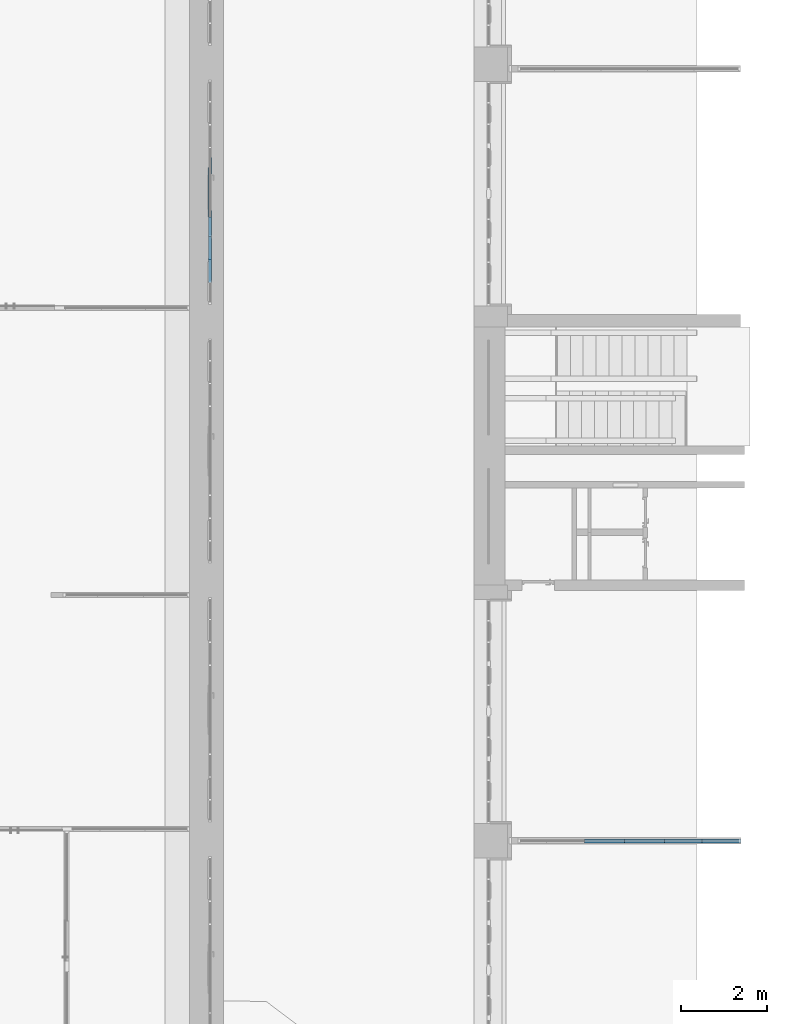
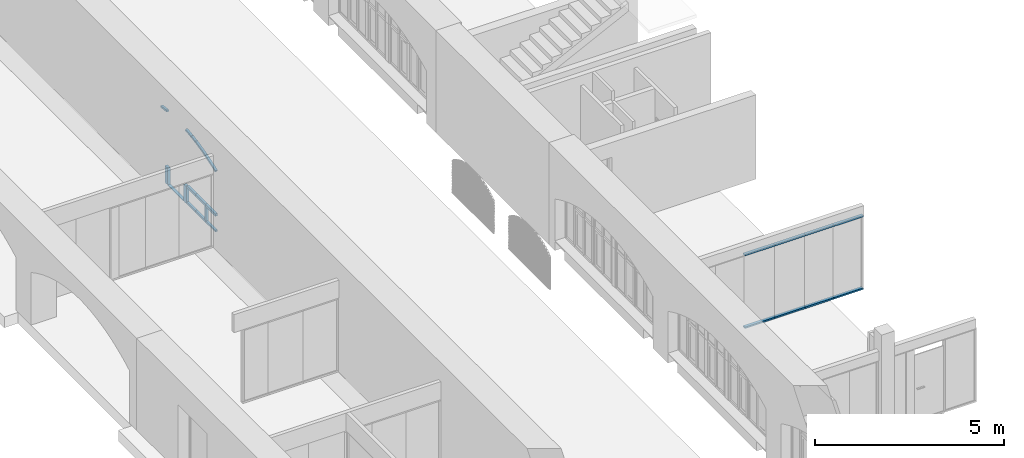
# One storey, part 34 of 88: 23 members, 2 elements without a shape of their own.
"""IFC2X3 building model written with IfcOpenShell, lengths in millimetres."""

from ifc_helpers import new_model, entity, si_unit, converted_unit, derived_unit, direction, frame, frame_2d, origin, place, context, subcontext, project, spatial, polyline, circle_curve, parameter, trimmed, segment, composite_curve, rectangle, outline, extrude, source, transform, mapped, material, type_object, type_shapes, element, aggregate, save


model = new_model("IFC2X3")

# Units and contexts
model_context = context("Model", 3, precision=0.01, world=origin(), true_north=direction((6.123031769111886e-17, 1.0)))
body_context = subcontext(model_context, "Body", "Model", "MODEL_VIEW")
ifc_project = project(units=[si_unit("LENGTHUNIT", "METRE", prefix="MILLI"), si_unit("AREAUNIT", "SQUARE_METRE"), si_unit("VOLUMEUNIT", "CUBIC_METRE"), converted_unit("PLANEANGLEUNIT", "DEGREE", entity("IfcPlaneAngleMeasure", 0.017453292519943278), si_unit("PLANEANGLEUNIT", "RADIAN"), dimensions=[0, 0, 0, 0, 0, 0, 0]), si_unit("MASSUNIT", "GRAM", prefix="KILO"), derived_unit("MASSDENSITYUNIT", [(si_unit("MASSUNIT", "GRAM", prefix="KILO"), 1), (si_unit("LENGTHUNIT", "METRE"), -3)]), derived_unit("IONCONCENTRATIONUNIT", [(si_unit("MASSUNIT", "GRAM", prefix="KILO"), 1), (si_unit("LENGTHUNIT", "METRE"), -3)]), derived_unit("MOMENTOFINERTIAUNIT", [(si_unit("LENGTHUNIT", "METRE"), 4)]), si_unit("TIMEUNIT", "SECOND"), si_unit("FREQUENCYUNIT", "HERTZ"), si_unit("THERMODYNAMICTEMPERATUREUNIT", "DEGREE_CELSIUS"), derived_unit("THERMALTRANSMITTANCEUNIT", [(si_unit("MASSUNIT", "GRAM", prefix="KILO"), 1), (si_unit("THERMODYNAMICTEMPERATUREUNIT", "KELVIN"), -1), (si_unit("TIMEUNIT", "SECOND"), -3)]), derived_unit("THERMALCONDUCTANCEUNIT", [(si_unit("MASSUNIT", "GRAM", prefix="KILO"), 1), (si_unit("THERMODYNAMICTEMPERATUREUNIT", "KELVIN"), -1), (si_unit("TIMEUNIT", "SECOND"), -3), (si_unit("LENGTHUNIT", "METRE"), 1)]), derived_unit("VOLUMETRICFLOWRATEUNIT", [(si_unit("LENGTHUNIT", "METRE", prefix="DECI"), 3), (si_unit("TIMEUNIT", "SECOND"), -1)]), derived_unit("MASSFLOWRATEUNIT", [(si_unit("MASSUNIT", "GRAM", prefix="KILO"), 1), (si_unit("TIMEUNIT", "SECOND"), -1)]), derived_unit("ROTATIONALFREQUENCYUNIT", [(si_unit("TIMEUNIT", "SECOND"), -1)]), si_unit("ELECTRICCURRENTUNIT", "AMPERE"), si_unit("ELECTRICVOLTAGEUNIT", "VOLT"), si_unit("POWERUNIT", "WATT"), si_unit("FORCEUNIT", "NEWTON", prefix="KILO"), si_unit("ILLUMINANCEUNIT", "LUX"), si_unit("LUMINOUSFLUXUNIT", "LUMEN"), si_unit("LUMINOUSINTENSITYUNIT", "CANDELA"), si_unit("ENERGYUNIT", "JOULE"), derived_unit("USERDEFINED", [(si_unit("MASSUNIT", "GRAM", prefix="KILO"), -1), (si_unit("LENGTHUNIT", "METRE"), -2), (si_unit("TIMEUNIT", "SECOND"), 3), (si_unit("LUMINOUSFLUXUNIT", "LUMEN"), 1)]), derived_unit("USERDEFINED", [(si_unit("MASSUNIT", "GRAM", prefix="KILO"), 1), (si_unit("TIMEUNIT", "SECOND"), -3), (si_unit("LENGTHUNIT", "METRE"), 3), (si_unit("ELECTRICCURRENTUNIT", "AMPERE"), -2)]), derived_unit("SOUNDPOWERUNIT", [(si_unit("MASSUNIT", "GRAM", prefix="KILO"), 1), (si_unit("TIMEUNIT", "SECOND"), -3), (si_unit("LENGTHUNIT", "METRE"), 2)]), derived_unit("SOUNDPRESSUREUNIT", [(si_unit("MASSUNIT", "GRAM", prefix="KILO"), 1), (si_unit("LENGTHUNIT", "METRE"), -1), (si_unit("TIMEUNIT", "SECOND"), -2)]), derived_unit("LINEARVELOCITYUNIT", [(si_unit("LENGTHUNIT", "METRE"), 1), (si_unit("TIMEUNIT", "SECOND"), -1)]), si_unit("PRESSUREUNIT", "PASCAL"), derived_unit("USERDEFINED", [(si_unit("MASSUNIT", "GRAM", prefix="KILO"), 1), (si_unit("LENGTHUNIT", "METRE"), -2), (si_unit("TIMEUNIT", "SECOND"), -2)]), derived_unit("LINEARFORCEUNIT", [(si_unit("MASSUNIT", "GRAM", prefix="KILO"), 1), (si_unit("TIMEUNIT", "SECOND"), -2)]), derived_unit("PLANARFORCEUNIT", [(si_unit("MASSUNIT", "GRAM", prefix="KILO"), 1), (si_unit("LENGTHUNIT", "METRE"), -1), (si_unit("TIMEUNIT", "SECOND"), -2)]), derived_unit("SPECIFICHEATCAPACITYUNIT", [(si_unit("THERMODYNAMICTEMPERATUREUNIT", "KELVIN"), -1), (si_unit("LENGTHUNIT", "METRE"), 2), (si_unit("TIMEUNIT", "SECOND"), -2)]), derived_unit("HEATFLUXDENSITYUNIT", [(si_unit("MASSUNIT", "GRAM", prefix="KILO"), 1), (si_unit("TIMEUNIT", "SECOND"), -3)]), derived_unit("HEATINGVALUEUNIT", [(si_unit("LENGTHUNIT", "METRE"), 2), (si_unit("TIMEUNIT", "SECOND"), -2)]), derived_unit("VAPORPERMEABILITYUNIT", [(si_unit("LENGTHUNIT", "METRE"), -1), (si_unit("TIMEUNIT", "SECOND"), 1)]), derived_unit("DYNAMICVISCOSITYUNIT", [(si_unit("MASSUNIT", "GRAM", prefix="KILO"), 1), (si_unit("TIMEUNIT", "SECOND"), -1), (si_unit("LENGTHUNIT", "METRE"), -1)]), derived_unit("THERMALEXPANSIONCOEFFICIENTUNIT", [(si_unit("THERMODYNAMICTEMPERATUREUNIT", "KELVIN"), -1)]), derived_unit("MODULUSOFELASTICITYUNIT", [(si_unit("MASSUNIT", "GRAM", prefix="KILO"), 1), (si_unit("LENGTHUNIT", "METRE"), -1), (si_unit("TIMEUNIT", "SECOND"), -2)]), derived_unit("ISOTHERMALMOISTURECAPACITYUNIT", [(si_unit("MASSUNIT", "GRAM", prefix="KILO"), -1), (si_unit("LENGTHUNIT", "METRE"), 3)]), derived_unit("MOISTUREDIFFUSIVITYUNIT", [(si_unit("TIMEUNIT", "SECOND"), -1), (si_unit("LENGTHUNIT", "METRE"), 2)]), derived_unit("MASSPERLENGTHUNIT", [(si_unit("MASSUNIT", "GRAM", prefix="KILO"), 1), (si_unit("LENGTHUNIT", "METRE"), -1)]), derived_unit("THERMALRESISTANCEUNIT", [(si_unit("MASSUNIT", "GRAM", prefix="KILO"), -1), (si_unit("TIMEUNIT", "SECOND"), 3), (si_unit("THERMODYNAMICTEMPERATUREUNIT", "KELVIN"), 1)]), derived_unit("ACCELERATIONUNIT", [(si_unit("LENGTHUNIT", "METRE"), 1), (si_unit("TIMEUNIT", "SECOND"), -2)]), derived_unit("ANGULARVELOCITYUNIT", [(si_unit("TIMEUNIT", "SECOND"), -1), (si_unit("PLANEANGLEUNIT", "RADIAN"), 1)]), derived_unit("LINEARSTIFFNESSUNIT", [(si_unit("MASSUNIT", "GRAM", prefix="KILO"), 1), (si_unit("TIMEUNIT", "SECOND"), -2)]), derived_unit("WARPINGCONSTANTUNIT", [(si_unit("LENGTHUNIT", "METRE"), 6)]), derived_unit("LINEARMOMENTUNIT", [(si_unit("MASSUNIT", "GRAM", prefix="KILO"), 1), (si_unit("LENGTHUNIT", "METRE"), 1), (si_unit("TIMEUNIT", "SECOND"), -2)]), derived_unit("TORQUEUNIT", [(si_unit("MASSUNIT", "GRAM", prefix="KILO"), 1), (si_unit("LENGTHUNIT", "METRE"), 2), (si_unit("TIMEUNIT", "SECOND"), -2)])], contexts=[model_context])

# Site, building, storey
site_placement = place(None, origin())
site = spatial("IfcSite", under=ifc_project, at=site_placement, Name="Default", CompositionType="ELEMENT")
building_placement = place(site_placement, origin())
building = spatial("IfcBuilding", under=site, at=building_placement, Name="Eesti Rahvusraamatukogu hoone renoveerimise projekteerimistööd", CompositionType="ELEMENT")
storey_placement = place(building_placement, origin())
storey = spatial("IfcBuildingStorey", under=building, at=storey_placement, Name="1. korrus", CompositionType="ELEMENT", Elevation=0.0)

# Curtain wall, members
curtain_wall_type_1 = type_object("IfcCurtainWallType", Name="Curtain Wall:VLS Klaasvahesein profiilita 38db", PredefinedType="NOTDEFINED")
curtain_wall_1_placement = place(storey_placement, origin())
curtain_wall_1 = element("IfcCurtainWall", 1, at=curtain_wall_1_placement, inside=storey, type_object=curtain_wall_type_1, Name="Curtain Wall:VLS Klaasvahesein profiilita 38db", ObjectType="Curtain Wall:VLS Klaasvahesein profiilita 38db")
ifc_material_1 = material(Name="Aluminum")
member_type_1 = type_object("IfcMemberType", Name="Rectangular Mullion:50mm x 92mm", PredefinedType="MULLION", material=ifc_material_1)
shared_shape_1 = source(origin(), body_context, "Body", "SweptSolid", [
    extrude(rectangle(XDim=50.0, YDim=92.0, at=frame_2d((0.0, 3.552713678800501e-15), x_axis=(1.0, 0.0))), frame((-25.0, 0.0, -902.5000000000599), z_axis=(0.0, 0.0, 1.0), x_axis=(-1.0, 0.0, 0.0)), (0.0, 0.0, 1.0), 902.500000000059),
])
type_shapes(member_type_1, [shared_shape_1])
member_1_placement = place(curtain_wall_1_placement, frame((-30590.0, 18390.0, 4050.0), z_axis=(1.0, 0.0, 0.0), x_axis=(0.0, 0.0, 1.0)))
member_1 = element("IfcMember", 2, at=member_1_placement, type_object=member_type_1, material=ifc_material_1, Name="Rectangular Mullion:50mm x 92mm", ObjectType="Rectangular Mullion:50mm x 92mm", context=body_context, shape_type="MappedRepresentation", body=[
    mapped(shared_shape_1, transform((0.0, 0.0, 0.0), scale=1.0)),
])
member_type_2 = type_object("IfcMemberType", Name="Rectangular Mullion:50mm x 92mm", PredefinedType="MULLION", material=ifc_material_1)
shared_shape_2 = source(origin(), body_context, "Body", "SweptSolid", [
    extrude(rectangle(XDim=50.0, YDim=92.0, at=frame_2d((0.0, 3.552713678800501e-15), x_axis=(1.0, 0.0))), frame((-25.0, 0.0, -877.5000000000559), z_axis=(0.0, 0.0, 1.0), x_axis=(-1.0, 0.0, 0.0)), (0.0, 0.0, 1.0), 877.500000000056),
])
type_shapes(member_type_2, [shared_shape_2])
member_2_placement = place(curtain_wall_1_placement, frame((-31492.49999999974, 18390.0, 4050.0), z_axis=(1.0, 0.0, 0.0), x_axis=(0.0, 0.0, 1.0)))
member_2 = element("IfcMember", 3, at=member_2_placement, type_object=member_type_2, material=ifc_material_1, Name="Rectangular Mullion:50mm x 92mm", ObjectType="Rectangular Mullion:50mm x 92mm", context=body_context, shape_type="MappedRepresentation", body=[
    mapped(shared_shape_2, transform((0.0, 0.0, 0.0), scale=1.0)),
])
member_type_3 = type_object("IfcMemberType", Name="Rectangular Mullion:50mm x 92mm", PredefinedType="MULLION", material=ifc_material_1)
shared_shape_3 = source(origin(), body_context, "Body", "SweptSolid", [
    extrude(rectangle(XDim=50.0, YDim=92.0, at=frame_2d((0.0, 3.552713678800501e-15), x_axis=(1.0, 0.0))), frame((-25.0, 0.0, -925.0), z_axis=(0.0, 0.0, 1.0), x_axis=(-1.0, 0.0, 0.0)), (0.0, 0.0, 1.0), 924.999999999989),
])
type_shapes(member_type_3, [shared_shape_3])
member_3_placement = place(curtain_wall_1_placement, frame((-32370.0, 18390.0, 4050.0), z_axis=(1.0, 0.0, 0.0), x_axis=(0.0, 0.0, 1.0)))
member_3 = element("IfcMember", 4, at=member_3_placement, type_object=member_type_3, material=ifc_material_1, Name="Rectangular Mullion:50mm x 92mm", ObjectType="Rectangular Mullion:50mm x 92mm", context=body_context, shape_type="MappedRepresentation", body=[
    mapped(shared_shape_3, transform((0.0, 0.0, 0.0), scale=1.0)),
])
member_4_placement = place(curtain_wall_1_placement, frame((-33295.0, 18390.0, 4050.0), z_axis=(1.0, 0.0, 0.0), x_axis=(0.0, 0.0, 1.0)))
member_4 = element("IfcMember", 5, at=member_4_placement, type_object=member_type_3, material=ifc_material_1, Name="Rectangular Mullion:50mm x 92mm", ObjectType="Rectangular Mullion:50mm x 92mm", context=body_context, shape_type="MappedRepresentation", body=[
    mapped(shared_shape_3, transform((0.0, 0.0, 0.0), scale=1.0)),
])
member_type_4 = type_object("IfcMemberType", Name="Rectangular Mullion:50mm x 92mm", PredefinedType="MULLION", material=ifc_material_1)
shared_shape_4 = source(origin(), body_context, "Body", "SweptSolid", [
    extrude(rectangle(XDim=50.0, YDim=92.0, at=frame_2d((0.0, 3.552713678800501e-15), x_axis=(1.0, 0.0))), frame((-25.0, 0.0, -877.5000000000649), z_axis=(0.0, 0.0, 1.0), x_axis=(-1.0, 0.0, 0.0)), (0.0, 0.0, 1.0), 877.5000000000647),
])
type_shapes(member_type_4, [shared_shape_4])
member_5_placement = place(curtain_wall_1_placement, frame((-32370.0, 18390.0, 1650.0), z_axis=(-1.0, 0.0, 0.0), x_axis=(0.0, 0.0, -1.0)))
member_5 = element("IfcMember", 6, at=member_5_placement, type_object=member_type_4, material=ifc_material_1, Name="Rectangular Mullion:50mm x 92mm", ObjectType="Rectangular Mullion:50mm x 92mm", context=body_context, shape_type="MappedRepresentation", body=[
    mapped(shared_shape_4, transform((0.0, 0.0, 0.0), scale=1.0)),
])
member_type_5 = type_object("IfcMemberType", Name="Rectangular Mullion:50mm x 92mm", PredefinedType="MULLION", material=ifc_material_1)
shared_shape_5 = source(origin(), body_context, "Body", "SweptSolid", [
    extrude(rectangle(XDim=50.0, YDim=92.0, at=frame_2d((0.0, 3.552713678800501e-15), x_axis=(1.0, 0.0))), frame((-25.0, 0.0, -902.5000000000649), z_axis=(0.0, 0.0, 1.0), x_axis=(-1.0, 0.0, 0.0)), (0.0, 0.0, 1.0), 902.5000000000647),
])
type_shapes(member_type_5, [shared_shape_5])
member_6_placement = place(curtain_wall_1_placement, frame((-31492.49999999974, 18390.0, 1650.0), z_axis=(-1.0, 0.0, 0.0), x_axis=(0.0, 0.0, -1.0)))
member_6 = element("IfcMember", 7, at=member_6_placement, type_object=member_type_5, material=ifc_material_1, Name="Rectangular Mullion:50mm x 92mm", ObjectType="Rectangular Mullion:50mm x 92mm", context=body_context, shape_type="MappedRepresentation", body=[
    mapped(shared_shape_5, transform((0.0, 0.0, 0.0), scale=1.0)),
])
member_type_6 = type_object("IfcMemberType", Name="Rectangular Mullion:50mm x 92mm", PredefinedType="MULLION", material=ifc_material_1)
shared_shape_6 = source(origin(), body_context, "Body", "SweptSolid", [
    extrude(rectangle(XDim=50.0, YDim=92.0, at=frame_2d((0.0, 3.552713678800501e-15), x_axis=(1.0, 0.0))), frame((-25.0, 0.0, -925.0), z_axis=(0.0, 0.0, 1.0), x_axis=(-1.0, 0.0, 0.0)), (0.0, 0.0, 1.0), 924.999999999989),
])
type_shapes(member_type_6, [shared_shape_6])
member_7_placement = place(curtain_wall_1_placement, frame((-33295.0, 18390.0, 1650.0), z_axis=(-1.0, 0.0, 0.0), x_axis=(0.0, 0.0, -1.0)))
member_7 = element("IfcMember", 8, at=member_7_placement, type_object=member_type_6, material=ifc_material_1, Name="Rectangular Mullion:50mm x 92mm", ObjectType="Rectangular Mullion:50mm x 92mm", context=body_context, shape_type="MappedRepresentation", body=[
    mapped(shared_shape_6, transform((0.0, 0.0, 0.0), scale=1.0)),
])
member_8_placement = place(curtain_wall_1_placement, frame((-34220.0, 18390.0, 1650.0), z_axis=(-1.0, 0.0, 0.0), x_axis=(0.0, 0.0, -1.0)))
member_8 = element("IfcMember", 9, at=member_8_placement, type_object=member_type_6, material=ifc_material_1, Name="Rectangular Mullion:50mm x 92mm", ObjectType="Rectangular Mullion:50mm x 92mm", context=body_context, shape_type="MappedRepresentation", body=[
    mapped(shared_shape_6, transform((0.0, 0.0, 0.0), scale=1.0)),
])
aggregate(curtain_wall_1, [member_1, member_3, member_2, member_5, member_6, member_4, member_7, member_8])

curtain_wall_type_2 = type_object("IfcCurtainWallType", Name="Curtain Wall:Ak-05", PredefinedType="NOTDEFINED")
curtain_wall_2_placement = place(storey_placement, origin())
curtain_wall_2 = element("IfcCurtainWall", 10, at=curtain_wall_2_placement, inside=storey, type_object=curtain_wall_type_2, Name="Curtain Wall:Ak-05", ObjectType="Curtain Wall:Ak-05")
ifc_material_2 = material(Name="LUMION_dark steel window frames")
member_type_7 = type_object("IfcMemberType", Name="Rectangular Mullion:NEW 60x70mm", PredefinedType="MULLION", material=ifc_material_2)
shared_shape_7 = source(origin(), body_context, "Body", "SweptSolid", [
    extrude(outline(composite_curve([segment(polyline([(-44.19959331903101, -278.92780712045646), (15.800406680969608, -278.9278071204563)]), True, "CONTINUOUS"), segment(trimmed(circle_curve(frame_2d((5479.080973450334, -278.9278071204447), x_axis=(-0.9948301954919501, 0.10155236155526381)), 5463.280566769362), [parameter(3.5622212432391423e-13)], [parameter(5.828569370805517)], True, "PARAMETER"), False, "CONTINUOUS"), segment(polyline([(44.04449918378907, 275.8812362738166), (-15.645312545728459, 281.97437796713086)]), True, "CONTINUOUS"), segment(trimmed(circle_curve(frame_2d((5479.080973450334, -278.9278071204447), x_axis=(-0.9948301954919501, 0.10155236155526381)), 5523.280566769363), [parameter(3.5622212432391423e-13)], [parameter(5.828569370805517)], True, "PARAMETER"), True, "CONTINUOUS")], self_intersect=False)), frame((-44.19959331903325, -35.0, -278.9278071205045), z_axis=(0.0, 1.0, 0.0), x_axis=(-0.9948301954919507, 0.0, 0.10155236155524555)), (0.0, 0.0, 1.0), 69.99999999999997),
])
type_shapes(member_type_7, [shared_shape_7])
member_9_placement = place(curtain_wall_2_placement, frame((-42905.0, 31335.0, 1939.3047106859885), z_axis=(0.0, -0.9256428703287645, -0.3783983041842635), x_axis=(0.0, -0.3783983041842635, 0.9256428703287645)))
member_9 = element("IfcMember", 11, at=member_9_placement, type_object=member_type_7, material=ifc_material_2, Name="Rectangular Mullion:NEW 60x70mm", ObjectType="Rectangular Mullion:NEW 60x70mm", context=body_context, shape_type="MappedRepresentation", body=[
    mapped(shared_shape_7, transform((0.0, 0.0, 0.0), scale=1.0)),
])
member_type_8 = type_object("IfcMemberType", Name="Rectangular Mullion:NEW 60x70mm", PredefinedType="MULLION", material=ifc_material_2)
shared_shape_8 = source(origin(), body_context, "Body", "SweptSolid", [
    extrude(outline(composite_curve([segment(polyline([(-43.38278695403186, -270.80676601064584), (16.61721304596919, -270.80676601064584)]), True, "CONTINUOUS"), segment(trimmed(circle_curve(frame_2d((5479.897779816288, -270.80676601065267), x_axis=(-0.9951275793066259, 0.09859564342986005)), 5463.280566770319), [parameter(3.5622212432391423e-13)], [parameter(5.658307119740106)], True, "PARAMETER"), False, "CONTINUOUS"), segment(polyline([(43.23661433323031, 267.8488967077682), (-16.471040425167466, 273.7646353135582)]), True, "CONTINUOUS"), segment(trimmed(circle_curve(frame_2d((5479.897779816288, -270.80676601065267), x_axis=(-0.9951275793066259, 0.09859564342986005)), 5523.280566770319), [parameter(3.5622212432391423e-13)], [parameter(5.658307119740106)], True, "PARAMETER"), True, "CONTINUOUS")], self_intersect=False)), frame((-43.382786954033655, -35.0, -270.8067660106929), z_axis=(0.0, 1.0, 0.0), x_axis=(-0.9951275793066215, 0.0, 0.09859564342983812)), (0.0, 0.0, 1.0), 69.99999999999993),
])
type_shapes(member_type_8, [shared_shape_8])
member_10_placement = place(curtain_wall_2_placement, frame((-42905.0, 31865.0, 2125.118079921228), z_axis=(0.0, -0.9592847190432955, -0.28244083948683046), x_axis=(0.0, -0.28244083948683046, 0.9592847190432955)))
member_10 = element("IfcMember", 12, at=member_10_placement, type_object=member_type_8, material=ifc_material_2, Name="Rectangular Mullion:NEW 60x70mm", ObjectType="Rectangular Mullion:NEW 60x70mm", context=body_context, shape_type="MappedRepresentation", body=[
    mapped(shared_shape_8, transform((0.0, 0.0, 0.0), scale=1.0)),
])
member_type_9 = type_object("IfcMemberType", Name="Rectangular Mullion:NEW 60x70mm", PredefinedType="MULLION", material=ifc_material_2)
shared_shape_9 = source(origin(), body_context, "Body", "SweptSolid", [
    extrude(outline(composite_curve([segment(polyline([(-32.20246871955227, -109.97239538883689), (27.79753128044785, -109.97239538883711)]), True, "CONTINUOUS"), segment(trimmed(circle_curve(frame_2d((5491.078098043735, -109.97239538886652), x_axis=(-0.9991981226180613, 0.040038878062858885)), 5463.280566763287), [parameter(3.5622212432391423e-13)], [parameter(2.2946721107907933)], True, "PARAMETER"), False, "CONTINUOUS"), segment(polyline([(32.17841239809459, 108.77122904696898), (-27.7734749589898, 111.17356173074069)]), True, "CONTINUOUS"), segment(trimmed(circle_curve(frame_2d((5491.078098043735, -109.97239538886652), x_axis=(-0.9991981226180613, 0.040038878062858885)), 5523.280566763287), [parameter(3.5622212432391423e-13)], [parameter(2.2946721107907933)], True, "PARAMETER"), True, "CONTINUOUS")], self_intersect=False)), frame((-32.202468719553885, -35.0, -109.9723953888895), z_axis=(0.0, 1.0, 0.0), x_axis=(-0.9991981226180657, 0.0, 0.04003887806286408)), (0.0, 0.0, 1.0), 69.99999999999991),
])
type_shapes(member_type_9, [shared_shape_9])
member_11_placement = place(curtain_wall_2_placement, frame((-42905.0, 32395.0, 2253.1112564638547), z_axis=(0.0, -0.9824581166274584, -0.18648337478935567), x_axis=(0.0, -0.18648337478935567, 0.9824581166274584)))
member_11 = element("IfcMember", 13, at=member_11_placement, type_object=member_type_9, material=ifc_material_2, Name="Rectangular Mullion:NEW 60x70mm", ObjectType="Rectangular Mullion:NEW 60x70mm", context=body_context, shape_type="MappedRepresentation", body=[
    mapped(shared_shape_9, transform((0.0, 0.0, 0.0), scale=1.0)),
])
member_type_10 = type_object("IfcMemberType", Name="Rectangular Mullion:NEW 60x70mm", PredefinedType="MULLION", material=ifc_material_2)
shared_shape_10 = source(origin(), body_context, "Body", "SweptSolid", [
    extrude(outline(composite_curve([segment(polyline([(-34.44225079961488, -156.14991642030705), (25.5577492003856, -156.14991642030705)]), True, "CONTINUOUS"), segment(trimmed(circle_curve(frame_2d((5488.8383159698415, -156.14991642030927), x_axis=(-0.9983826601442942, 0.05685124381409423)), 5463.280566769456), [parameter(3.5622212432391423e-13)], [parameter(3.2590935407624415)], True, "PARAMETER"), False, "CONTINUOUS"), segment(polyline([(34.393730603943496, 154.44437910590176), (-25.509229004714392, 157.8554537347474)]), True, "CONTINUOUS"), segment(trimmed(circle_curve(frame_2d((5488.8383159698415, -156.14991642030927), x_axis=(-0.9983826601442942, 0.05685124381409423)), 5523.280566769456), [parameter(3.5622212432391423e-13)], [parameter(3.2590935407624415)], True, "PARAMETER"), True, "CONTINUOUS")], self_intersect=False)), frame((-34.44225079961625, -35.0, -156.14991642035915), z_axis=(0.0, 1.0, 0.0), x_axis=(-0.9983826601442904, 0.0, 0.056851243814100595)), (0.0, 0.0, 1.0), 69.99999999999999),
])
type_shapes(member_type_10, [shared_shape_10])
member_12_placement = place(curtain_wall_2_placement, frame((-42905.0, 33925.0, 2327.321965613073), z_axis=(0.0, -0.9958941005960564, 0.09052591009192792), x_axis=(0.0, 0.09052591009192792, 0.9958941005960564)))
member_12 = element("IfcMember", 14, at=member_12_placement, type_object=member_type_10, material=ifc_material_2, Name="Rectangular Mullion:NEW 60x70mm", ObjectType="Rectangular Mullion:NEW 60x70mm", context=body_context, shape_type="MappedRepresentation", body=[
    mapped(shared_shape_10, transform((0.0, 0.0, 0.0), scale=1.0)),
])
member_type_11 = type_object("IfcMemberType", Name="Rectangular Mullion:NEW 150x90mm", PredefinedType="MULLION", material=ifc_material_2)
shared_shape_11 = source(origin(), body_context, "Body", "SweptSolid", [
    extrude(outline(polyline([(40.0, -20.0), (45.0, -20.0), (45.0, 20.0), (40.0, 20.0), (40.0, 75.0), (-40.0, 75.0), (-40.0, 20.0), (-45.0, 20.0), (-45.0, -20.0), (-40.0, -20.0), (-40.0, -75.0), (40.0, -75.0), (40.0, -20.0)])), frame((0.0, 0.0, -550.0), z_axis=(0.0, 0.0, 1.0), x_axis=(0.0, -1.0, 0.0)), (0.0, 0.0, 1.0), 550.0000000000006),
])
type_shapes(member_type_11, [shared_shape_11])
member_13_placement = place(curtain_wall_2_placement, frame((-42905.0, 33925.0, -50.0), z_axis=(0.0, 0.0, -1.0), x_axis=(0.0, -1.0, 0.0)))
member_13 = element("IfcMember", 15, at=member_13_placement, type_object=member_type_11, material=ifc_material_2, Name="Rectangular Mullion:NEW 150x90mm", ObjectType="Rectangular Mullion:NEW 150x90mm", context=body_context, shape_type="MappedRepresentation", body=[
    mapped(shared_shape_11, transform((0.0, 0.0, 0.0), scale=1.0)),
])
member_14_placement = place(curtain_wall_2_placement, frame((-42905.0, 32925.0, -50.0), z_axis=(0.0, 0.0, -1.0), x_axis=(0.0, -1.0, 0.0)))
member_14 = element("IfcMember", 16, at=member_14_placement, type_object=member_type_11, material=ifc_material_2, Name="Rectangular Mullion:NEW 150x90mm", ObjectType="Rectangular Mullion:NEW 150x90mm", context=body_context, shape_type="MappedRepresentation", body=[
    mapped(shared_shape_11, transform((0.0, 0.0, 0.0), scale=1.0)),
])
member_type_12 = type_object("IfcMemberType", Name="Rectangular Mullion:NEW 80x70mm", PredefinedType="MULLION", material=ifc_material_2)
shared_shape_12 = source(origin(), body_context, "Body", "SweptSolid", [
    extrude(rectangle(XDim=80.0, YDim=70.0, at=frame_2d((0.0, -3.552713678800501e-15), x_axis=(1.0, 0.0))), frame((0.0, 0.0, -530.0), z_axis=(0.0, 0.0, 1.0), x_axis=(-1.0, 0.0, 0.0)), (0.0, 0.0, 1.0), 530.0000000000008),
])
type_shapes(member_type_12, [shared_shape_12])
member_15_placement = place(curtain_wall_2_placement, frame((-42905.0, 31335.0, 500.0), z_axis=(0.0, -1.0, 0.0), x_axis=(0.0, 0.0, 1.0)))
member_15 = element("IfcMember", 17, at=member_15_placement, type_object=member_type_12, material=ifc_material_2, Name="Rectangular Mullion:NEW 80x70mm", ObjectType="Rectangular Mullion:NEW 80x70mm", context=body_context, shape_type="MappedRepresentation", body=[
    mapped(shared_shape_12, transform((0.0, 0.0, 0.0), scale=1.0)),
])
member_16_placement = place(curtain_wall_2_placement, frame((-42905.0, 31865.0, 500.0), z_axis=(0.0, -1.0, 0.0), x_axis=(0.0, 0.0, 1.0)))
member_16 = element("IfcMember", 18, at=member_16_placement, type_object=member_type_12, material=ifc_material_2, Name="Rectangular Mullion:NEW 80x70mm", ObjectType="Rectangular Mullion:NEW 80x70mm", context=body_context, shape_type="MappedRepresentation", body=[
    mapped(shared_shape_12, transform((0.0, 0.0, 0.0), scale=1.0)),
])
member_type_13 = type_object("IfcMemberType", Name="Rectangular Mullion:NEW 80x70mm", PredefinedType="MULLION", material=ifc_material_2)
shared_shape_13 = source(origin(), body_context, "Body", "SweptSolid", [
    extrude(rectangle(XDim=80.0, YDim=70.0, at=frame_2d((0.0, -3.552713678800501e-15), x_axis=(1.0, 0.0))), frame((0.0, 0.0, -455.0), z_axis=(0.0, 0.0, 1.0), x_axis=(-1.0, 0.0, 0.0)), (0.0, 0.0, 1.0), 455.0000000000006),
])
type_shapes(member_type_13, [shared_shape_13])
member_17_placement = place(curtain_wall_2_placement, frame((-42905.0, 32395.0, 500.0), z_axis=(0.0, -1.0, 0.0), x_axis=(0.0, 0.0, 1.0)))
member_17 = element("IfcMember", 19, at=member_17_placement, type_object=member_type_13, material=ifc_material_2, Name="Rectangular Mullion:NEW 80x70mm", ObjectType="Rectangular Mullion:NEW 80x70mm", context=body_context, shape_type="MappedRepresentation", body=[
    mapped(shared_shape_13, transform((0.0, 0.0, 0.0), scale=1.0)),
])
member_type_14 = type_object("IfcMemberType", Name="Rectangular Mullion:NEW 80x70mm", PredefinedType="MULLION", material=ifc_material_2)
shared_shape_14 = source(origin(), body_context, "Body", "SweptSolid", [
    extrude(rectangle(XDim=80.0, YDim=70.0, at=frame_2d((0.0, 3.552713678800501e-15), x_axis=(1.0, 0.0))), frame((0.0, 0.0, -450.0), z_axis=(0.0, 0.0, 1.0), x_axis=(-1.0, 0.0, 0.0)), (0.0, 0.0, 1.0), 450.00000000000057),
])
type_shapes(member_type_14, [shared_shape_14])
member_18_placement = place(curtain_wall_2_placement, frame((-42905.0, 31865.0, 10.0), z_axis=(0.0, 0.0, -1.0), x_axis=(0.0, -1.0, 0.0)))
member_18 = element("IfcMember", 20, at=member_18_placement, type_object=member_type_14, material=ifc_material_2, Name="Rectangular Mullion:NEW 80x70mm", ObjectType="Rectangular Mullion:NEW 80x70mm", context=body_context, shape_type="MappedRepresentation", body=[
    mapped(shared_shape_14, transform((0.0, 0.0, 0.0), scale=1.0)),
])
member_type_15 = type_object("IfcMemberType", Name="Rectangular Mullion:NEW 60x70mm", PredefinedType="MULLION", material=ifc_material_2)
shared_shape_15 = source(origin(), body_context, "Body", "SweptSolid", [
    extrude(rectangle(XDim=60.0, YDim=70.0, at=frame_2d((0.0, 3.552713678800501e-15), x_axis=(1.0, 0.0))), frame((-30.0, 0.0, -530.0), z_axis=(0.0, 0.0, 1.0), x_axis=(-1.0, 0.0, 0.0)), (0.0, 0.0, 1.0), 530.0000000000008),
])
type_shapes(member_type_15, [shared_shape_15])
member_19_placement = place(curtain_wall_2_placement, frame((-42905.0, 31865.0, -50.0), z_axis=(0.0, 1.0, 0.0), x_axis=(0.0, 0.0, -1.0)))
member_19 = element("IfcMember", 21, at=member_19_placement, type_object=member_type_15, material=ifc_material_2, Name="Rectangular Mullion:NEW 60x70mm", ObjectType="Rectangular Mullion:NEW 60x70mm", context=body_context, shape_type="MappedRepresentation", body=[
    mapped(shared_shape_15, transform((0.0, 0.0, 0.0), scale=1.0)),
])
member_type_16 = type_object("IfcMemberType", Name="Rectangular Mullion:NEW 60x70mm", PredefinedType="MULLION", material=ifc_material_2)
shared_shape_16 = source(origin(), body_context, "Body", "SweptSolid", [
    extrude(rectangle(XDim=60.0, YDim=70.0, at=frame_2d((0.0, 3.552713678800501e-15), x_axis=(1.0, 0.0))), frame((-30.0, 0.0, -530.0), z_axis=(0.0, 0.0, 1.0), x_axis=(-1.0, 0.0, 0.0)), (0.0, 0.0, 1.0), 530.0000000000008),
])
type_shapes(member_type_16, [shared_shape_16])
member_20_placement = place(curtain_wall_2_placement, frame((-42905.0, 32395.0, -50.0), z_axis=(0.0, 1.0, 0.0), x_axis=(0.0, 0.0, -1.0)))
member_20 = element("IfcMember", 22, at=member_20_placement, type_object=member_type_16, material=ifc_material_2, Name="Rectangular Mullion:NEW 60x70mm", ObjectType="Rectangular Mullion:NEW 60x70mm", context=body_context, shape_type="MappedRepresentation", body=[
    mapped(shared_shape_16, transform((0.0, 0.0, 0.0), scale=1.0)),
])
member_type_17 = type_object("IfcMemberType", Name="Rectangular Mullion:NEW 60x70mm", PredefinedType="MULLION", material=ifc_material_2)
shared_shape_17 = source(origin(), body_context, "Body", "SweptSolid", [
    extrude(rectangle(XDim=60.0, YDim=70.0, at=frame_2d((0.0, 3.552713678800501e-15), x_axis=(1.0, 0.0))), frame((-30.0, 0.0, -455.0), z_axis=(0.0, 0.0, 1.0), x_axis=(-1.0, 0.0, 0.0)), (0.0, 0.0, 1.0), 455.0000000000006),
])
type_shapes(member_type_17, [shared_shape_17])
member_21_placement = place(curtain_wall_2_placement, frame((-42905.0, 32850.0, -50.0), z_axis=(0.0, 1.0, 0.0), x_axis=(0.0, 0.0, -1.0)))
member_21 = element("IfcMember", 23, at=member_21_placement, type_object=member_type_17, material=ifc_material_2, Name="Rectangular Mullion:NEW 60x70mm", ObjectType="Rectangular Mullion:NEW 60x70mm", context=body_context, shape_type="MappedRepresentation", body=[
    mapped(shared_shape_17, transform((0.0, 0.0, 0.0), scale=1.0)),
])
ifc_material_3 = material(Name="Lumion_aluminium")
member_type_18 = type_object("IfcMemberType", Name="Rectangular Mullion:NEW 10x90mm", PredefinedType="MULLION", material=ifc_material_3)
shared_shape_18 = source(origin(), body_context, "Body", "SweptSolid", [
    extrude(rectangle(XDim=10.0, YDim=90.0, at=frame_2d((0.0, 3.552713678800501e-15), x_axis=(1.0, 0.0))), frame((-5.0, 0.0, -850.0), z_axis=(0.0, 0.0, 1.0), x_axis=(-1.0, 0.0, 0.0)), (0.0, 0.0, 1.0), 849.9999999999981),
])
type_shapes(member_type_18, [shared_shape_18])
member_22_placement = place(curtain_wall_2_placement, frame((-42905.0, 33850.0, -50.0), z_axis=(0.0, 1.0, 0.0), x_axis=(0.0, 0.0, -1.0)))
member_22 = element("IfcMember", 24, at=member_22_placement, type_object=member_type_18, material=ifc_material_3, Name="Rectangular Mullion:NEW 10x90mm", ObjectType="Rectangular Mullion:NEW 10x90mm", context=body_context, shape_type="MappedRepresentation", body=[
    mapped(shared_shape_18, transform((0.0, 0.0, 0.0), scale=1.0)),
])
member_type_19 = type_object("IfcMemberType", Name="Rectangular Mullion:NEW 60x70mm", PredefinedType="MULLION", material=ifc_material_2)
shared_shape_19 = source(origin(), body_context, "Body", "SweptSolid", [
    extrude(outline(composite_curve([segment(polyline([(-34.44225079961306, -156.14991642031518), (25.55774920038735, -156.14991642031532)]), True, "CONTINUOUS"), segment(trimmed(circle_curve(frame_2d((5488.838315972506, -156.14991642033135), x_axis=(-0.9983826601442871, 0.05685124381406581)), 5463.2805667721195), [parameter(3.5622212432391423e-13)], [parameter(3.2590935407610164)], True, "PARAMETER"), False, "CONTINUOUS"), segment(polyline([(34.393730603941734, 154.44437910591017), (-25.509229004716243, 157.8554537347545)]), True, "CONTINUOUS"), segment(trimmed(circle_curve(frame_2d((5488.838315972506, -156.14991642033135), x_axis=(-0.9983826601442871, 0.05685124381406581)), 5523.2805667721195), [parameter(3.5622212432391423e-13)], [parameter(3.2590935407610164)], True, "PARAMETER"), True, "CONTINUOUS")], self_intersect=False)), frame((-34.44225079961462, -35.0, -156.14991642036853), z_axis=(0.0, 1.0, 0.0), x_axis=(-0.9983826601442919, 0.0, 0.056851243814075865)), (0.0, 0.0, 1.0), 69.99999999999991),
])
type_shapes(member_type_19, [shared_shape_19])
member_23_placement = place(curtain_wall_2_placement, frame((-42905.0, 32613.092574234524, 2290.0), z_axis=(0.0, -0.9891368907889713, -0.14699731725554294), x_axis=(0.0, -0.14699731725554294, 0.9891368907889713)))
member_23 = element("IfcMember", 25, at=member_23_placement, type_object=member_type_19, material=ifc_material_2, Name="Rectangular Mullion:NEW 60x70mm", ObjectType="Rectangular Mullion:NEW 60x70mm", context=body_context, shape_type="MappedRepresentation", body=[
    mapped(shared_shape_19, transform((0.0, 0.0, 0.0), scale=1.0)),
])
aggregate(curtain_wall_2, [member_9, member_10, member_11, member_12, member_13, member_14, member_15, member_16, member_17, member_18, member_19, member_20, member_21, member_22, member_23])

save(model, "model.ifc")
